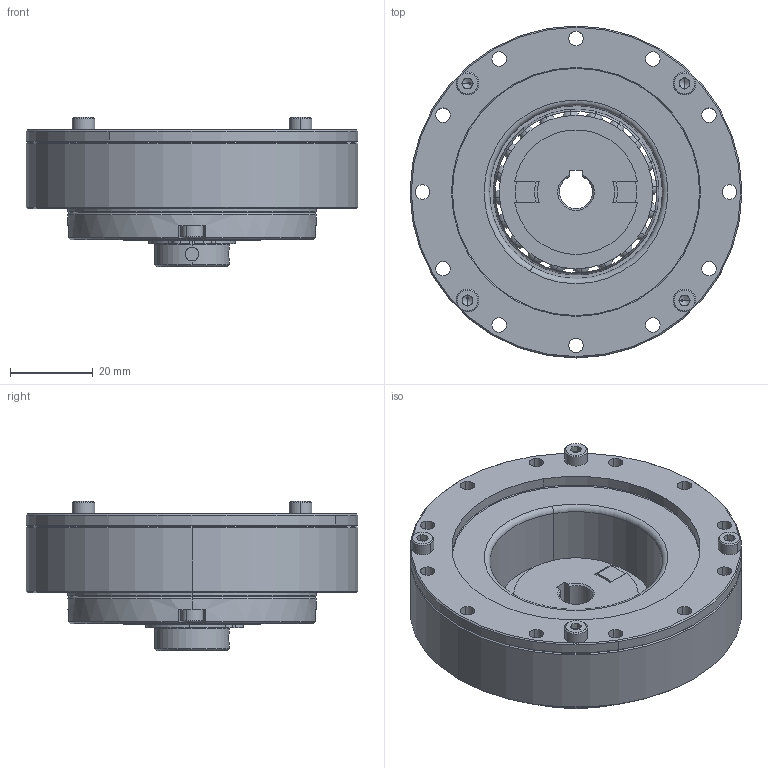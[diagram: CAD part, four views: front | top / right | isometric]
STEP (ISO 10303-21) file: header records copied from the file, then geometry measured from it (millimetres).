
FILE_DESCRIPTION (( 'STEP AP203' ), '1' );
FILE_NAME ('BHS-17-XXX-U-¢ò.STEP', '2019-01-15T03:43:59', ( 'User' ), ( 'China' ), 'SwSTEP 2.0', 'SolidWorks 2015', '' );
FILE_SCHEMA (( 'CONFIG_CONTROL_DESIGN' ));
Length unit declared in the file: millimetre
Products named in the file (1): BHS-17-XXX-U-ｊ
Bounding box: 80 x 80 x 35.96 mm (x, y, z)
Surface area: 38650.2 mm2 (no closed solid volume)
Topology: 0 solids, 24 shells, 430 faces, 1475 edges, 998 vertices
Faces by surface type: cylinder 158, plane 122, cone 62, torus 46, sphere 40, bspline 2
Entity records: 16152 total; most frequent: CARTESIAN_POINT 3860, DIRECTION 2660, ORIENTED_EDGE 2290, EDGE_CURVE 1359, AXIS2_PLACEMENT_3D 1072, VERTEX_POINT 938, CIRCLE 643, EDGE_LOOP 572
